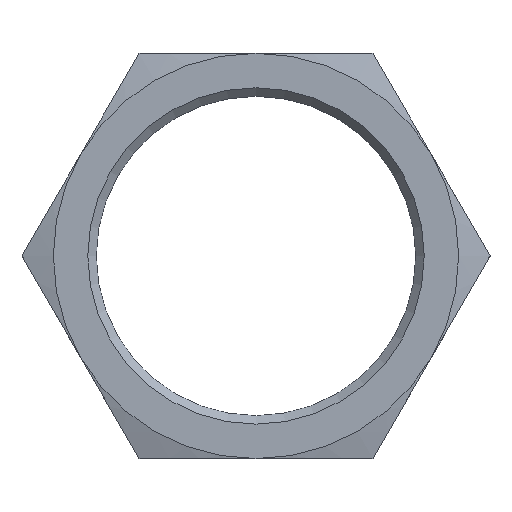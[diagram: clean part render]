
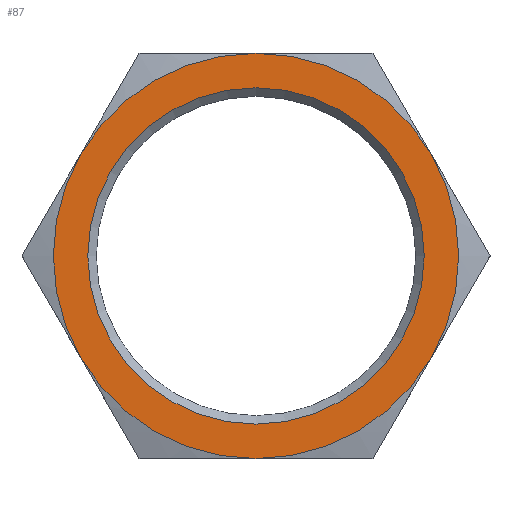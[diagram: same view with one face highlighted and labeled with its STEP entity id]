
A CAD part, top view. The second image highlights one B-rep face of the part: STEP entity #87.
In plain terms, the highlighted planar face has unit normal (0, 0, 1).
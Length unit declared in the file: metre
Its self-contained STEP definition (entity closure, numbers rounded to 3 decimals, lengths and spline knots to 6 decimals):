
#87 = ADVANCED_FACE( '', ( #174, #175 ), #176, .T. );
#174 = FACE_BOUND( '', #255, .T. );
#175 = FACE_OUTER_BOUND( '', #256, .T. );
#176 = PLANE( '', #257 );
#255 = EDGE_LOOP( '', ( #422 ) );
#256 = EDGE_LOOP( '', ( #423, #424, #425, #426, #427, #428 ) );
#257 = AXIS2_PLACEMENT_3D( '', #429, #430, #431 );
#422 = ORIENTED_EDGE( '', *, *, #457, .T. );
#423 = ORIENTED_EDGE( '', *, *, #474, .F. );
#424 = ORIENTED_EDGE( '', *, *, #497, .F. );
#425 = ORIENTED_EDGE( '', *, *, #510, .F. );
#426 = ORIENTED_EDGE( '', *, *, #488, .F. );
#427 = ORIENTED_EDGE( '', *, *, #512, .F. );
#428 = ORIENTED_EDGE( '', *, *, #492, .F. );
#429 = CARTESIAN_POINT( '', ( -0.031177, 0.018, 0.005 ) );
#430 = DIRECTION( '', ( 0., 0., 1. ) );
#431 = DIRECTION( '', ( 1., 0., 0. ) );
#457 = EDGE_CURVE( '', #532, #532, #533, .F. );
#474 = EDGE_CURVE( '', #557, #560, #561, .F. );
#488 = EDGE_CURVE( '', #553, #581, #582, .F. );
#492 = EDGE_CURVE( '', #560, #573, #586, .F. );
#497 = EDGE_CURVE( '', #528, #557, #591, .F. );
#510 = EDGE_CURVE( '', #581, #528, #607, .F. );
#512 = EDGE_CURVE( '', #573, #553, #609, .F. );
#528 = VERTEX_POINT( '', #637 );
#532 = VERTEX_POINT( '', #651 );
#533 = CIRCLE( '', #652, 0.014938 );
#553 = VERTEX_POINT( '', #694 );
#557 = VERTEX_POINT( '', #708 );
#560 = VERTEX_POINT( '', #716 );
#561 = CIRCLE( '', #717, 0.018 );
#573 = VERTEX_POINT( '', #745 );
#581 = VERTEX_POINT( '', #768 );
#582 = CIRCLE( '', #769, 0.018 );
#586 = CIRCLE( '', #783, 0.018 );
#591 = CIRCLE( '', #798, 0.018 );
#607 = CIRCLE( '', #825, 0.018 );
#609 = CIRCLE( '', #827, 0.018 );
#637 = CARTESIAN_POINT( '', ( 0.015588, 0.009, 0.005 ) );
#651 = CARTESIAN_POINT( '', ( 0.014938, 0., 0.005 ) );
#652 = AXIS2_PLACEMENT_3D( '', #840, #841, #842 );
#694 = CARTESIAN_POINT( '', ( -0.015588, 0.009, 0.005 ) );
#708 = CARTESIAN_POINT( '', ( 0.015588, -0.009, 0.005 ) );
#716 = CARTESIAN_POINT( '', ( 0., -0.018, 0.005 ) );
#717 = AXIS2_PLACEMENT_3D( '', #854, #855, #856 );
#745 = CARTESIAN_POINT( '', ( -0.015588, -0.009, 0.005 ) );
#768 = CARTESIAN_POINT( '', ( 0., 0.018, 0.005 ) );
#769 = AXIS2_PLACEMENT_3D( '', #864, #865, #866 );
#783 = AXIS2_PLACEMENT_3D( '', #867, #868, #869 );
#798 = AXIS2_PLACEMENT_3D( '', #870, #871, #872 );
#825 = AXIS2_PLACEMENT_3D( '', #886, #887, #888 );
#827 = AXIS2_PLACEMENT_3D( '', #889, #890, #891 );
#840 = CARTESIAN_POINT( '', ( 0., 0., 0.005 ) );
#841 = DIRECTION( '', ( 0., 0., 1. ) );
#842 = DIRECTION( '', ( 1., 0., 0. ) );
#854 = CARTESIAN_POINT( '', ( 0., 0., 0.005 ) );
#855 = DIRECTION( '', ( 0., 0., 1. ) );
#856 = DIRECTION( '', ( 1., 0., 0. ) );
#864 = CARTESIAN_POINT( '', ( 0., 0., 0.005 ) );
#865 = DIRECTION( '', ( 0., 0., 1. ) );
#866 = DIRECTION( '', ( 1., 0., 0. ) );
#867 = CARTESIAN_POINT( '', ( 0., 0., 0.005 ) );
#868 = DIRECTION( '', ( 0., 0., 1. ) );
#869 = DIRECTION( '', ( 1., 0., 0. ) );
#870 = CARTESIAN_POINT( '', ( 0., 0., 0.005 ) );
#871 = DIRECTION( '', ( 0., 0., 1. ) );
#872 = DIRECTION( '', ( 1., 0., 0. ) );
#886 = CARTESIAN_POINT( '', ( 0., 0., 0.005 ) );
#887 = DIRECTION( '', ( 0., 0., 1. ) );
#888 = DIRECTION( '', ( 1., 0., 0. ) );
#889 = CARTESIAN_POINT( '', ( 0., 0., 0.005 ) );
#890 = DIRECTION( '', ( 0., 0., 1. ) );
#891 = DIRECTION( '', ( 1., 0., 0. ) );
